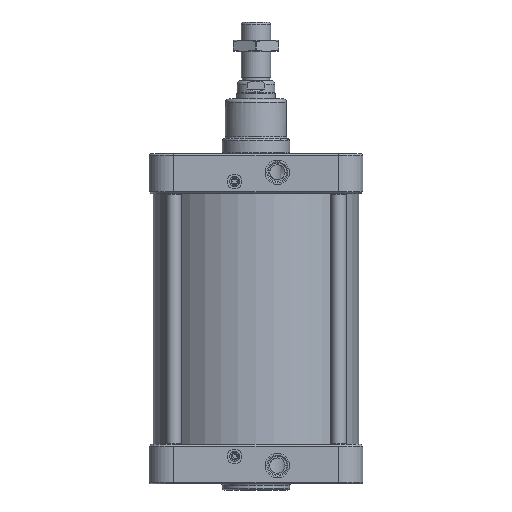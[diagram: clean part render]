
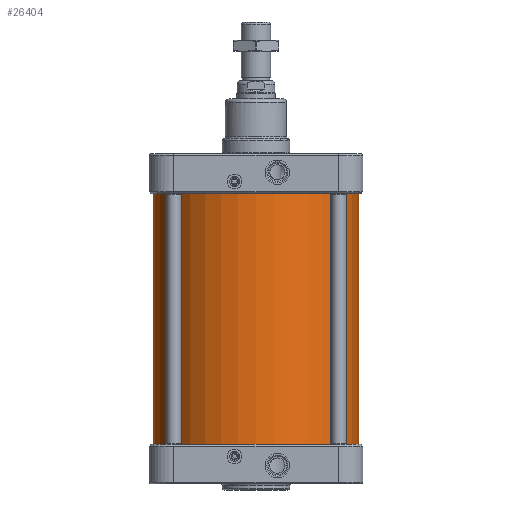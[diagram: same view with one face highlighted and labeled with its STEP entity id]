
A CAD part, front view. The second image highlights one B-rep face of the part: STEP entity #26404.
In plain terms, the highlighted cylindrical face has radius 168 mm (diameter 336 mm), a full revolution.
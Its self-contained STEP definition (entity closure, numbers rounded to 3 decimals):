
#2804=CIRCLE('',#29645,168.);
#2805=CIRCLE('',#29647,168.);
#3478=FACE_BOUND('',#7098,.T.);
#5147=FACE_OUTER_BOUND('',#7097,.T.);
#7097=EDGE_LOOP('',(#22547));
#7098=EDGE_LOOP('',(#22548));
#11979=VERTEX_POINT('',#64759);
#11980=VERTEX_POINT('',#64762);
#15511=EDGE_CURVE('',#11979,#11979,#2804,.T.);
#15512=EDGE_CURVE('',#11980,#11980,#2805,.T.);
#22547=ORIENTED_EDGE('',*,*,#15511,.T.);
#22548=ORIENTED_EDGE('',*,*,#15512,.T.);
#23070=CYLINDRICAL_SURFACE('',#29646,168.);
#26404=ADVANCED_FACE('',(#5147,#3478),#23070,.T.);
#29645=AXIS2_PLACEMENT_3D('',#64760,#36878,#36879);
#29646=AXIS2_PLACEMENT_3D('',#64761,#36880,#36881);
#29647=AXIS2_PLACEMENT_3D('',#64763,#36882,#36883);
#36878=DIRECTION('center_axis',(0.,0.,1.));
#36879=DIRECTION('ref_axis',(-1.,0.,0.));
#36880=DIRECTION('center_axis',(0.,0.,1.));
#36881=DIRECTION('ref_axis',(-1.,0.,0.));
#36882=DIRECTION('center_axis',(0.,0.,-1.));
#36883=DIRECTION('ref_axis',(-1.,0.,0.));
#64759=CARTESIAN_POINT('',(168.,0.,-205.));
#64760=CARTESIAN_POINT('Origin',(0.,0.,-205.));
#64761=CARTESIAN_POINT('Origin',(0.,0.,0.));
#64762=CARTESIAN_POINT('',(168.,0.,205.));
#64763=CARTESIAN_POINT('Origin',(0.,0.,205.));
